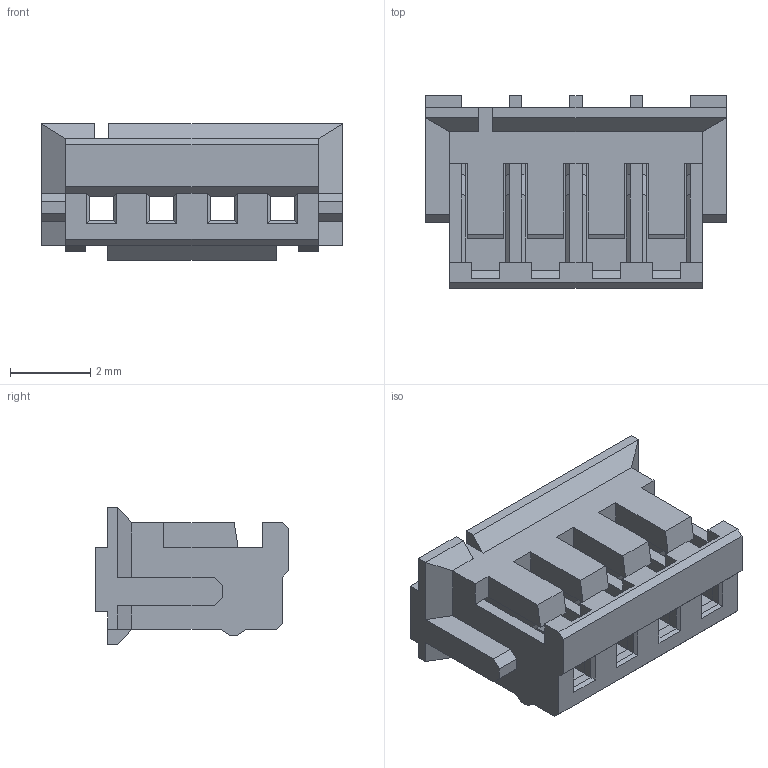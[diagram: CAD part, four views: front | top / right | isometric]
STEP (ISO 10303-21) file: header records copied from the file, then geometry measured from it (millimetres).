
FILE_DESCRIPTION((''),'2;1');
FILE_NAME('50478-004HXXX-001_INST2','2011-12-27T',('12222509'),(''),'PRO/ENGINEER BY PARAMETRIC TECHNOLOGY CORPORATION, 2009360','PRO/ENGINEER BY PARAMETRIC TECHNOLOGY CORPORATION, 2009360','');
FILE_SCHEMA(('CONFIG_CONTROL_DESIGN', 'GEOMETRIC_VALIDATION_PROPERTIES_MIM'));
Length unit declared in the file: millimetre
Products named in the file (1): 50478-004HXXX-001_INST2
Bounding box: 7.5 x 4.8 x 3.4 mm (x, y, z)
Volume: 41 mm3; surface area: 243.5 mm2
Topology: 1 solids, 1 shells, 232 faces, 666 edges, 424 vertices
Faces by surface type: plane 232
Entity records: 7465 total; most frequent: ORIENTED_EDGE 1332, CARTESIAN_POINT 1324, DIRECTION 1130, VECTOR 666, LINE 666, EDGE_CURVE 666, VERTEX_POINT 424, EDGE_LOOP 236
